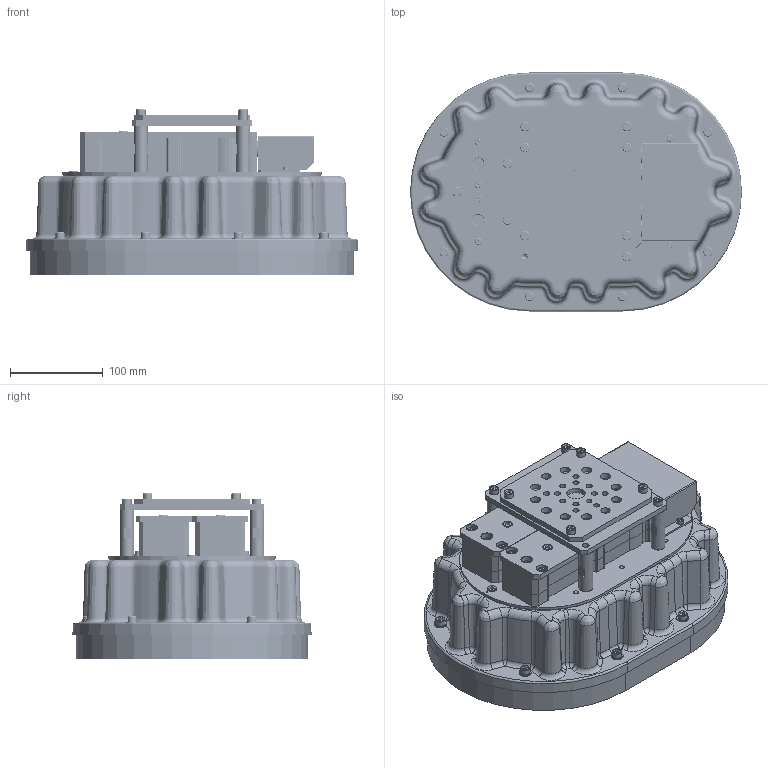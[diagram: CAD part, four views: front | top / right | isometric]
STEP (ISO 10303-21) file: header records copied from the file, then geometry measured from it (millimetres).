
FILE_DESCRIPTION(('STEP AP214'),'1');
FILE_NAME('SGP-H3B-250X350-CRT30.stp','2025-01-18T04:41:14',(' '),(' '),'Spatial InterOp 3D',' ',' ');
FILE_SCHEMA(('AUTOMOTIVE_DESIGN { 1 0 10303 214 1 1 1 1 }'));
Length unit declared in the file: millimetre
Products named in the file (150): SGP-H3B-250X350-CRT30; M6用WS; M6*L8; ねじ: 穴付き - M6.0 x 8.0; Top Plate; Body; Under Plate; SGP CVZ Assy; プラグ; SGP-サイレンサ; CTX-0418-3000; CTX-0418-3001; CTX-0418-3002; RTWS13; M4*50六角穴付ボルト; _FCBS4-40-10; SGP-000-3050(供給ベース); CVZ-015-3002; Filter Assy; SGP-000-3101(Vフィルタ); SGP-000-3101(Vフィルタ押さえ板); _NKJ3-4; FL-Assy; Base; CB6; ねじ : 穴付き - M6.0 x 12.0; ねじ: 穴付き - M6.0 x 20.0; FLプレートB; _SGP-FL-B-f; Cover; CB4; ねじ: 穴付き - M4.0 x 8.0; Ring; Pad; CBSTS6-12; Stopper; shaft 01; Gasket; CB5; ねじ: 穴付き - M5.0 x 10.0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
Assembly tree (149 placements, depth 5):
  SGP-H3B-250X350-CRT30
    M6用WS
    M6用WS
    M6用WS
    M6用WS
    M6用WS
    M6用WS
    M6用WS
    M6用WS
    M6*L8
      ねじ: 穴付き - M6.0 x 8.0
    M6*L8
      ねじ: 穴付き - M6.0 x 8.0
    M6*L8
      ねじ: 穴付き - M6.0 x 8.0
    M6*L8
      ねじ: 穴付き - M6.0 x 8.0
    M6*L8
      ねじ: 穴付き - M6.0 x 8.0
    M6*L8
      ねじ: 穴付き - M6.0 x 8.0
    M6*L8
      ねじ: 穴付き - M6.0 x 8.0
    M6*L8
    Top Plate
    Body
    Under Plate
    SGP CVZ Assy
      プラグ
      SGP-サイレンサ
        CTX-0418-3000
        CTX-0418-3001
        CTX-0418-3002
        CTX-0418-3002
        RTWS13
      SGP-サイレンサ
        CTX-0418-3000
        CTX-0418-3001
        CTX-0418-3002
        CTX-0418-3002
        RTWS13
      M4*50六角穴付ボルト
        M4*50六角穴付ボルト
          _FCBS4-40-10
        M4*50六角穴付ボルト
          _FCBS4-40-10
        M4*50六角穴付ボルト
          _FCBS4-40-10
        M4*50六角穴付ボルト
          _FCBS4-40-10
        M4*50六角穴付ボルト
          _FCBS4-40-10
        M4*50六角穴付ボルト
          _FCBS4-40-10
      SGP-000-3050(供給ベース)
      CVZ-015-3002
      CVZ-015-3002
    プラグ
    SGP CVZ Assy
      プラグ
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Bounding box: 357.7 x 257.7 x 178.82 mm (x, y, z)
Volume: 2401575.9 mm3; surface area: 1177009.9 mm2
Topology: 106 solids, 106 shells, 2807 faces, 6641 edges, 4231 vertices
Faces by surface type: plane 1295, cylinder 951, cone 303, torus 154, bspline 96, sphere 8
Full cylindrical faces by diameter (mm): 1.5 x9, 2.5 x2, 2.693 x8, 3 x24, 3.3 x12, 3.5 x16, 4 x36, 4.5 x24, 4.917 x8, 5 x16, 6 x68, 6.6 x15, 6.9 x2, 7 x60, 8 x8, 8.385 x2, 8.5 x1, 9 x8, 9.4 x4, 9.87 x19, 10 x12, 10.5 x4, 11 x12, 11.4 x4, 11.8 x4, 12 x14, 13 x28, 13.6 x8, 13.85 x8, 14.5 x8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
Entity records: 105881 total; most frequent: CARTESIAN_POINT 15552, DIRECTION 14264, ORIENTED_EDGE 11492, EDGE_CURVE 5746, AXIS2_PLACEMENT_3D 5670, EDGE_LOOP 4350, VERTEX_POINT 4110, FACE_OUTER_BOUND 3350
